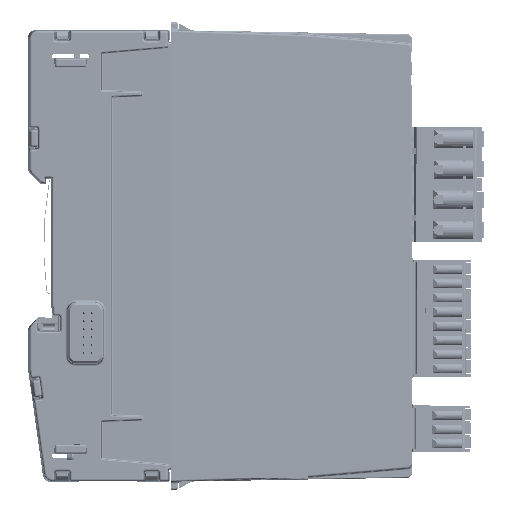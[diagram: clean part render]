
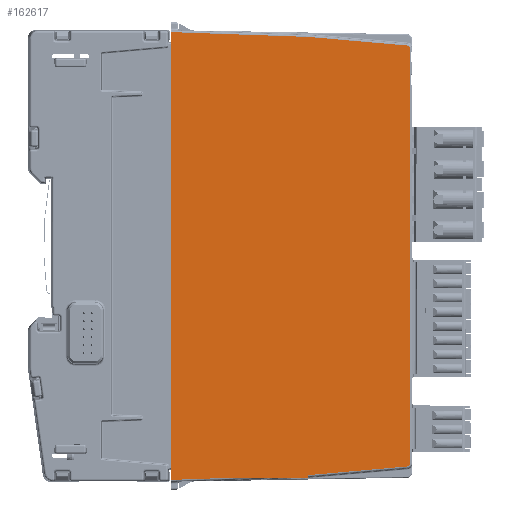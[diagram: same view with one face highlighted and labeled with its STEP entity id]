
A CAD part, left-side view. The second image highlights one B-rep face of the part: STEP entity #162617.
In plain terms, the highlighted planar face has unit normal (-1, -0.018, 0).
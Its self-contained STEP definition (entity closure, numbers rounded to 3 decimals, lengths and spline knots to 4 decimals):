
#15600=FACE_OUTER_BOUND('',#24642,.T.);
#24642=EDGE_LOOP('',(#137055,#137056,#137057,#137058,#137059,#137060,#137061,
#137062,#137063,#137064,#137065,#137066,#137067));
#40521=LINE('',#277845,#56888);
#40534=LINE('',#277917,#56901);
#40591=LINE('',#278145,#56958);
#40901=LINE('',#279592,#57268);
#40902=LINE('',#279594,#57269);
#40903=LINE('',#279598,#57270);
#40904=LINE('',#279602,#57271);
#40905=LINE('',#279604,#57272);
#40906=LINE('',#279606,#57273);
#40907=LINE('',#279608,#57274);
#40908=LINE('',#279609,#57275);
#56888=VECTOR('',#214026,0.3937);
#56901=VECTOR('',#214067,0.3937);
#56958=VECTOR('',#214262,39.3701);
#57268=VECTOR('',#214964,39.3701);
#57269=VECTOR('',#214965,39.3701);
#57270=VECTOR('',#214968,39.3701);
#57271=VECTOR('',#214971,39.3701);
#57272=VECTOR('',#214972,39.3701);
#57273=VECTOR('',#214973,39.3701);
#57274=VECTOR('',#214974,39.3701);
#57275=VECTOR('',#214975,39.3701);
#59638=ELLIPSE('',#175092,0.0315,0.0315);
#59639=ELLIPSE('',#175093,0.0315,0.0315);
#72664=VERTEX_POINT('',#277841);
#72666=VERTEX_POINT('',#277844);
#72688=VERTEX_POINT('',#277912);
#72746=VERTEX_POINT('',#278144);
#73075=VERTEX_POINT('',#279591);
#73076=VERTEX_POINT('',#279593);
#73077=VERTEX_POINT('',#279595);
#73078=VERTEX_POINT('',#279597);
#73079=VERTEX_POINT('',#279599);
#73080=VERTEX_POINT('',#279601);
#73081=VERTEX_POINT('',#279603);
#73082=VERTEX_POINT('',#279605);
#73083=VERTEX_POINT('',#279607);
#94014=EDGE_CURVE('',#72664,#72666,#40521,.T.);
#94041=EDGE_CURVE('',#72666,#72688,#40534,.T.);
#94134=EDGE_CURVE('',#72746,#72688,#40591,.T.);
#94604=EDGE_CURVE('',#72664,#73075,#40901,.T.);
#94605=EDGE_CURVE('',#73075,#73076,#40902,.T.);
#94606=EDGE_CURVE('',#73076,#73077,#59638,.T.);
#94607=EDGE_CURVE('',#73077,#73078,#40903,.T.);
#94608=EDGE_CURVE('',#73078,#73079,#59639,.T.);
#94609=EDGE_CURVE('',#73079,#73080,#40904,.T.);
#94610=EDGE_CURVE('',#73080,#73081,#40905,.T.);
#94611=EDGE_CURVE('',#73081,#73082,#40906,.T.);
#94612=EDGE_CURVE('',#73083,#73082,#40907,.T.);
#94613=EDGE_CURVE('',#73083,#72746,#40908,.T.);
#137055=ORIENTED_EDGE('',*,*,#94604,.T.);
#137056=ORIENTED_EDGE('',*,*,#94605,.T.);
#137057=ORIENTED_EDGE('',*,*,#94606,.T.);
#137058=ORIENTED_EDGE('',*,*,#94607,.T.);
#137059=ORIENTED_EDGE('',*,*,#94608,.T.);
#137060=ORIENTED_EDGE('',*,*,#94609,.T.);
#137061=ORIENTED_EDGE('',*,*,#94610,.T.);
#137062=ORIENTED_EDGE('',*,*,#94611,.T.);
#137063=ORIENTED_EDGE('',*,*,#94612,.F.);
#137064=ORIENTED_EDGE('',*,*,#94613,.T.);
#137065=ORIENTED_EDGE('',*,*,#94134,.T.);
#137066=ORIENTED_EDGE('',*,*,#94041,.F.);
#137067=ORIENTED_EDGE('',*,*,#94014,.F.);
#146249=PLANE('',#175091);
#162617=ADVANCED_FACE('',(#15600),#146249,.T.);
#175091=AXIS2_PLACEMENT_3D('',#279590,#214962,#214963);
#175092=AXIS2_PLACEMENT_3D('',#279596,#214966,#214967);
#175093=AXIS2_PLACEMENT_3D('',#279600,#214969,#214970);
#214026=DIRECTION('',(0.,0.,-1.));
#214067=DIRECTION('',(-0.017,1.,0.));
#214262=DIRECTION('',(0.017,-0.999,0.035));
#214962=DIRECTION('center_axis',(-1.,-0.017,
0.));
#214963=DIRECTION('ref_axis',(-0.017,1.,0.));
#214964=DIRECTION('',(0.017,-0.999,0.035));
#214965=DIRECTION('',(0.017,-0.996,0.087));
#214966=DIRECTION('center_axis',(-1.,-0.017,
0.));
#214967=DIRECTION('ref_axis',(0.017,-1.,0.));
#214968=DIRECTION('',(0.,0.,1.));
#214969=DIRECTION('center_axis',(-1.,-0.017,
0.));
#214970=DIRECTION('ref_axis',(0.017,-1.,0.));
#214971=DIRECTION('',(-0.017,0.996,0.087));
#214972=DIRECTION('',(-0.017,0.999,0.035));
#214973=DIRECTION('',(0.,0.,-1.));
#214974=DIRECTION('',(0.,0.,1.));
#214975=DIRECTION('',(0.,0.,-1.));
#277841=CARTESIAN_POINT('',(0.0005,-2.2096,-4.1958));
#277844=CARTESIAN_POINT('',(0.0005,-2.2096,-4.2206));
#277845=CARTESIAN_POINT('',(0.0005,-2.2096,-3.155));
#277912=CARTESIAN_POINT('',(-0.0119,-1.4997,-4.2206));
#277917=CARTESIAN_POINT('',(-0.0131,-1.4351,-4.2206));
#278144=CARTESIAN_POINT('',(-0.0227,-0.8827,-4.2421));
#278145=CARTESIAN_POINT('',(-0.0282,-0.5654,-4.2532));
#279590=CARTESIAN_POINT('Origin',(-0.0296,-0.489,
-2.0669));
#279591=CARTESIAN_POINT('',(0.0007,-2.2205,-4.1954));
#279592=CARTESIAN_POINT('',(-0.0282,-0.5654,-4.2532));
#279593=CARTESIAN_POINT('',(0.0174,-3.1772,-4.1117));
#279594=CARTESIAN_POINT('',(-0.0261,-0.6869,-4.3296));
#279595=CARTESIAN_POINT('',(0.0179,-3.2059,-4.0803));
#279596=CARTESIAN_POINT('Origin',(0.0173,-3.1744,
-4.0803));
#279597=CARTESIAN_POINT('',(0.0179,-3.2059,-0.0535));
#279598=CARTESIAN_POINT('',(0.0179,-3.2059,-0.0535));
#279599=CARTESIAN_POINT('',(0.0174,-3.1772,-0.0221));
#279600=CARTESIAN_POINT('Origin',(0.0173,-3.1744,
-0.0535));
#279601=CARTESIAN_POINT('',(0.0007,-2.2205,0.0616));
#279602=CARTESIAN_POINT('',(-0.0261,-0.6869,0.1957));
#279603=CARTESIAN_POINT('',(-0.0227,-0.8827,0.1083));
#279604=CARTESIAN_POINT('',(-0.0282,-0.5654,0.1194));
#279605=CARTESIAN_POINT('',(-0.0227,-0.8827,-0.0312));
#279606=CARTESIAN_POINT('',(-0.0227,-0.8827,0.128));
#279607=CARTESIAN_POINT('',(-0.0227,-0.8827,-4.1027));
#279608=CARTESIAN_POINT('',(-0.0227,-0.8827,-7.5932));
#279609=CARTESIAN_POINT('',(-0.0227,-0.8827,0.128));
